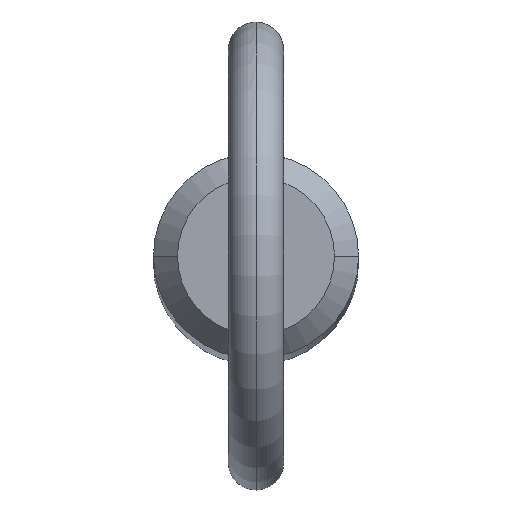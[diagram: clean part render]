
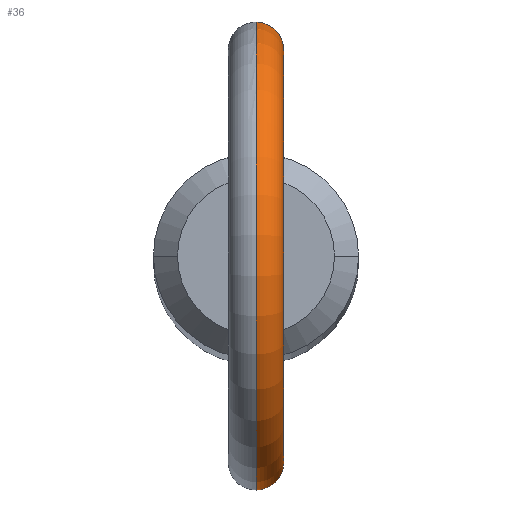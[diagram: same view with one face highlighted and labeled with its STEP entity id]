
A CAD part, top view. The second image highlights one B-rep face of the part: STEP entity #36.
In plain terms, the highlighted toroidal (fillet/blend) face has major radius 11.2 mm and minor radius 1.5 mm.
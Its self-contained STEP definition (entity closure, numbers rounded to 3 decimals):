
#4 = EDGE_CURVE ( 'NONE', #91, #442, #327, .T. ) ;
#7 = CARTESIAN_POINT ( 'NONE',  ( 0.786, -5.497, 177.257 ) ) ;
#9 = CARTESIAN_POINT ( 'NONE',  ( 1.26, -5.407, 174.743 ) ) ;
#24 = CARTESIAN_POINT ( 'NONE',  ( 1.393, 5.372, 175.033 ) ) ;
#36 = ADVANCED_FACE ( 'NONE', ( #323 ), #393, .T. ) ;
#39 = CARTESIAN_POINT ( 'NONE',  ( 0.779, 5.496, 177.248 ) ) ;
#52 = CARTESIAN_POINT ( 'NONE',  ( 0.107, -5.55, 174.077 ) ) ;
#53 = CARTESIAN_POINT ( 'NONE',  ( 1.194, -5.422, 176.771 ) ) ;
#54 = CIRCLE ( 'NONE', #386, 12.7 ) ;
#56 = CARTESIAN_POINT ( 'NONE',  ( 1.455, -5.356, 175.238 ) ) ;
#58 = CARTESIAN_POINT ( 'NONE',  ( 1.44, -5.36, 176.186 ) ) ;
#59 = CARTESIAN_POINT ( 'NONE',  ( 0.106, -5.55, 177.545 ) ) ;
#91 = VERTEX_POINT ( 'NONE', #238 ) ;
#94 = CARTESIAN_POINT ( 'NONE',  ( 0.807, -5.492, 174.306 ) ) ;
#97 = CARTESIAN_POINT ( 'NONE',  ( 0., -5.55, 174.077 ) ) ;
#102 = CARTESIAN_POINT ( 'NONE',  ( 1.509, 5.341, 175.553 ) ) ;
#106 = AXIS2_PLACEMENT_3D ( 'NONE', #267, #479, #352 ) ;
#117 = DIRECTION ( 'NONE',  ( 0., 0., -1. ) ) ;
#121 = B_SPLINE_CURVE_WITH_KNOTS ( 'NONE', 3,
 ( #138, #59, #328, #326, #491, #7, #246, #53, #370, #58, #454, #415, #452, #413, #56, #218, #9, #213, #367, #94, #137, #282, #176, #456, #52, #97 ),
 .UNSPECIFIED., .F., .F.,
 ( 4, 2, 2, 2, 2, 2, 2, 2, 2, 2, 2, 2, 4 ),
 ( 0.005, 0.005, 0.005, 0.006, 0.006, 0.007, 0.007, 0.008, 0.008, 0.009, 0.009, 0.009, 0.01 ),
 .UNSPECIFIED. ) ;
#137 = CARTESIAN_POINT ( 'NONE',  ( 0.716, -5.504, 174.252 ) ) ;
#138 = CARTESIAN_POINT ( 'NONE',  ( 0., -5.55, 177.545 ) ) ;
#139 = ORIENTED_EDGE ( 'NONE', *, *, #351, .F. ) ;
#159 = CARTESIAN_POINT ( 'NONE',  ( 1.194, 5.422, 176.772 ) ) ;
#165 = CARTESIAN_POINT ( 'NONE',  ( 0.422, 5.537, 177.478 ) ) ;
#172 = VERTEX_POINT ( 'NONE', #272 ) ;
#176 = CARTESIAN_POINT ( 'NONE',  ( 0.421, -5.535, 174.132 ) ) ;
#184 = CARTESIAN_POINT ( 'NONE',  ( 0.522, 5.526, 174.165 ) ) ;
#192 = CARTESIAN_POINT ( 'NONE',  ( 1.294, 5.398, 176.585 ) ) ;
#194 = VERTEX_POINT ( 'NONE', #488 ) ;
#211 = CARTESIAN_POINT ( 'NONE',  ( 0.694, 5.507, 177.314 ) ) ;
#213 = CARTESIAN_POINT ( 'NONE',  ( 1.055, -5.449, 174.505 ) ) ;
#218 = CARTESIAN_POINT ( 'NONE',  ( 1.363, -5.38, 174.934 ) ) ;
#221 = CARTESIAN_POINT ( 'NONE',  ( 0., -5.55, 177.545 ) ) ;
#224 = CARTESIAN_POINT ( 'NONE',  ( 0.212, 5.547, 174.088 ) ) ;
#227 = DIRECTION ( 'NONE',  ( 0., 0., -1. ) ) ;
#238 = CARTESIAN_POINT ( 'NONE',  ( 0., 5.55, 177.545 ) ) ;
#245 = CARTESIAN_POINT ( 'NONE',  ( 0.213, 5.55, 177.545 ) ) ;
#246 = CARTESIAN_POINT ( 'NONE',  ( 0.941, -5.471, 177.107 ) ) ;
#256 = CARTESIAN_POINT ( 'NONE',  ( 0.984, 5.464, 174.424 ) ) ;
#259 = CARTESIAN_POINT ( 'NONE',  ( 1.485, 5.348, 175.978 ) ) ;
#263 = EDGE_CURVE ( 'NONE', #442, #194, #121, .T. ) ;
#267 = CARTESIAN_POINT ( 'NONE',  ( 0., 0., 185.5 ) ) ;
#272 = CARTESIAN_POINT ( 'NONE',  ( 0., 5.55, 174.077 ) ) ;
#277 = ORIENTED_EDGE ( 'NONE', *, *, #520, .T. ) ;
#282 = CARTESIAN_POINT ( 'NONE',  ( 0.523, -5.526, 174.166 ) ) ;
#300 = CARTESIAN_POINT ( 'NONE',  ( 1.44, 5.36, 176.188 ) ) ;
#323 = FACE_OUTER_BOUND ( 'NONE', #519, .T. ) ;
#326 = CARTESIAN_POINT ( 'NONE',  ( 0.417, -5.535, 177.467 ) ) ;
#327 = CIRCLE ( 'NONE', #106, 9.7 ) ;
#328 = CARTESIAN_POINT ( 'NONE',  ( 0.214, -5.547, 177.528 ) ) ;
#331 = CARTESIAN_POINT ( 'NONE',  ( 0.419, 5.535, 174.132 ) ) ;
#350 = DIRECTION ( 'NONE',  ( 1., 0., 0. ) ) ;
#351 = EDGE_CURVE ( 'NONE', #172, #91, #453, .T. ) ;
#352 = DIRECTION ( 'NONE',  ( 0., 0., -1. ) ) ;
#354 = ORIENTED_EDGE ( 'NONE', *, *, #263, .F. ) ;
#364 = CARTESIAN_POINT ( 'NONE',  ( 0., 5.55, 177.545 ) ) ;
#367 = CARTESIAN_POINT ( 'NONE',  ( 0.977, -5.464, 174.432 ) ) ;
#370 = CARTESIAN_POINT ( 'NONE',  ( 1.295, -5.397, 176.582 ) ) ;
#375 = CARTESIAN_POINT ( 'NONE',  ( 0.107, 5.55, 174.077 ) ) ;
#382 = CARTESIAN_POINT ( 'NONE',  ( 1.486, 5.348, 175.338 ) ) ;
#385 = CARTESIAN_POINT ( 'NONE',  ( 0., 0., 185.5 ) ) ;
#386 = AXIS2_PLACEMENT_3D ( 'NONE', #385, #350, #227 ) ;
#389 = CARTESIAN_POINT ( 'NONE',  ( 0., 0., 185.5 ) ) ;
#393 = TOROIDAL_SURFACE ( 'NONE', #516, 11.2, 1.5 ) ;
#413 = CARTESIAN_POINT ( 'NONE',  ( 1.477, -5.35, 175.344 ) ) ;
#415 = CARTESIAN_POINT ( 'NONE',  ( 1.503, -5.343, 175.659 ) ) ;
#427 = CARTESIAN_POINT ( 'NONE',  ( 0.81, 5.494, 174.295 ) ) ;
#433 = DIRECTION ( 'NONE',  ( 1., 0., 0. ) ) ;
#438 = CARTESIAN_POINT ( 'NONE',  ( 1.003, 5.459, 177.025 ) ) ;
#442 = VERTEX_POINT ( 'NONE', #221 ) ;
#452 = CARTESIAN_POINT ( 'NONE',  ( 1.5, -5.343, 175.554 ) ) ;
#453 = B_SPLINE_CURVE_WITH_KNOTS ( 'NONE', 3,
 ( #471, #375, #224, #331, #184, #427, #256, #463, #497, #469, #24, #382, #102, #259, #300, #192, #159, #438, #481, #39, #211, #165, #245, #364 ),
 .UNSPECIFIED., .F., .F.,
 ( 4, 2, 2, 2, 2, 2, 2, 2, 2, 2, 2, 4 ),
 ( 0.001, 0.001, 0.001, 0.002, 0.002, 0.002, 0.003, 0.004, 0.004, 0.005, 0.005, 0.006 ),
 .UNSPECIFIED. ) ;
#454 = CARTESIAN_POINT ( 'NONE',  ( 1.486, -5.347, 175.974 ) ) ;
#456 = CARTESIAN_POINT ( 'NONE',  ( 0.213, -5.547, 174.088 ) ) ;
#463 = CARTESIAN_POINT ( 'NONE',  ( 1.19, 5.421, 174.662 ) ) ;
#469 = CARTESIAN_POINT ( 'NONE',  ( 1.352, 5.383, 174.935 ) ) ;
#471 = CARTESIAN_POINT ( 'NONE',  ( 0., 5.55, 174.077 ) ) ;
#472 = ORIENTED_EDGE ( 'NONE', *, *, #4, .F. ) ;
#479 = DIRECTION ( 'NONE',  ( 1., 0., 0. ) ) ;
#481 = CARTESIAN_POINT ( 'NONE',  ( 0.933, 5.472, 177.104 ) ) ;
#488 = CARTESIAN_POINT ( 'NONE',  ( 0., -5.55, 174.077 ) ) ;
#491 = CARTESIAN_POINT ( 'NONE',  ( 0.515, -5.527, 177.422 ) ) ;
#497 = CARTESIAN_POINT ( 'NONE',  ( 1.251, 5.407, 174.75 ) ) ;
#516 = AXIS2_PLACEMENT_3D ( 'NONE', #389, #433, #117 ) ;
#519 = EDGE_LOOP ( 'NONE', ( #139, #277, #354, #472 ) ) ;
#520 = EDGE_CURVE ( 'NONE', #172, #194, #54, .T. ) ;
